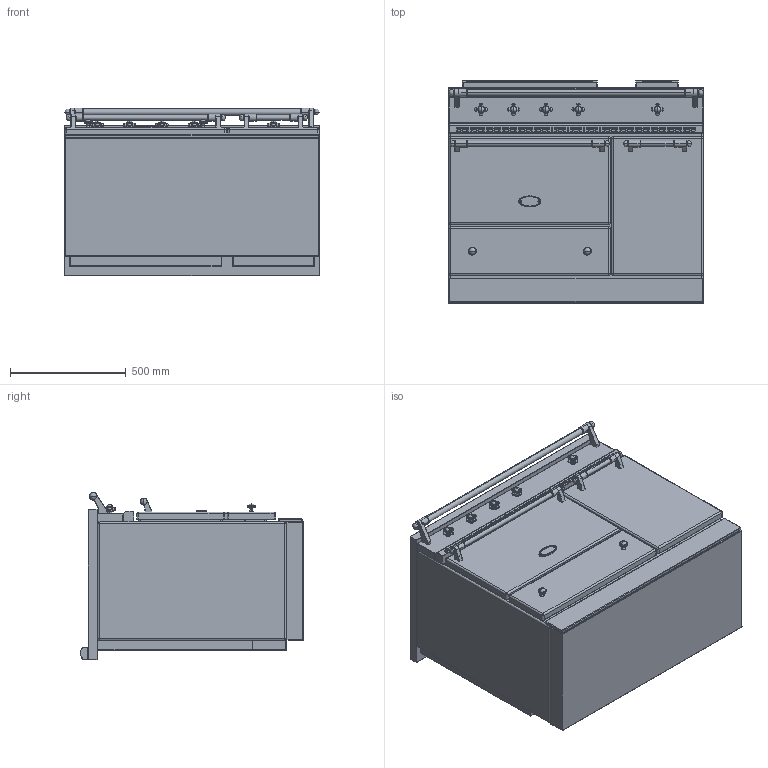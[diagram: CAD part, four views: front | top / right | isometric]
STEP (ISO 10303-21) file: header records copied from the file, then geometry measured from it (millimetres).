
FILE_DESCRIPTION((''),'2;1');
FILE_NAME('LVI1132_SAVIGNY_ASM','2021-12-02T10:28:19',('r.avril'),(''),'CREO PARAMETRIC BY PTC INC, 2017260','CREO PARAMETRIC BY PTC INC, 2017260','');
FILE_SCHEMA(('AP203_CONFIGURATION_CONTROLLED_3D_DESIGN_OF_MECHANICAL_PARTS_AND_ASSEMBLIES_MIM_LF { 1 0 10303 403 2 1 2 }'));
Products named in the file (19): BASE_EXPORT_CHAMBERTIN_LVI1131; 65650003; 65650004; 6531940; 6531941; 6531943; 65049009; 65650001; 6538399; 1931942; 65080022_AF0; 6531942_ASM; BASE_EXPORT_SAVIGNY_LVI1132_ASM; TABLE_1105D_INDUCTION_ET_VTR; 65052012; CHEMINEE_2020_LG182_EXPORT_STEP; CHEMINEE_2020_LG582_EXPORT_STEP; TABLE_1105D_INDUCTION_ASM; LVI1132_SAVIGNY_ASM
Assembly tree (25 placements, depth 4):
  LVI1132_SAVIGNY_ASM
    BASE_EXPORT_SAVIGNY_LVI1132_ASM
      BASE_EXPORT_CHAMBERTIN_LVI1131
      65650003
      65650004
      6531940  x2
      6531941  x2
      6531943  x2
      65049009
      65650001
      6531942_ASM  x5
        6538399
        1931942
        65080022_AF0
    TABLE_1105D_INDUCTION_ASM
      TABLE_1105D_INDUCTION_ET_VTR
      65052012
      CHEMINEE_2020_LG182_EXPORT_STEP
      CHEMINEE_2020_LG582_EXPORT_STEP
Bounding box: 1105 x 963 x 724 mm (x, y, z)
Volume: 406420958 mm3; surface area: 10413997.6 mm2
Topology: 37 solids, 45 shells, 4142 faces, 11190 edges, 7165 vertices
Faces by surface type: plane 2198, cylinder 1322, torus 170, sphere 154, extrusion 142, bspline 75, cone 69, revolution 12
Entity records: 108487 total; most frequent: CARTESIAN_POINT 23879, ORIENTED_EDGE 15076, DIRECTION 14540, EDGE_CURVE 7548, VECTOR 5162, LINE 5132, VERTEX_POINT 4885, AXIS2_PLACEMENT_3D 4658
